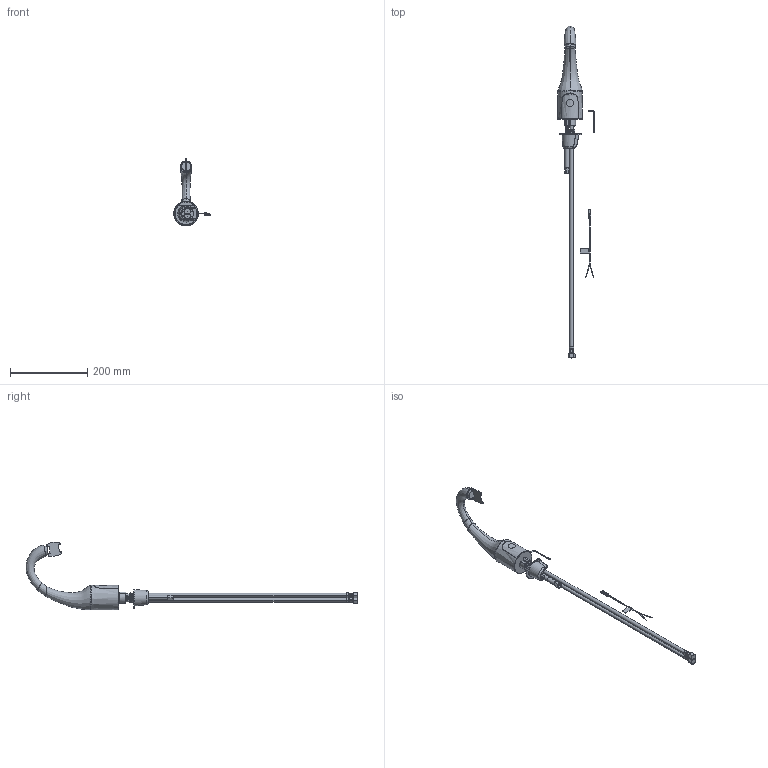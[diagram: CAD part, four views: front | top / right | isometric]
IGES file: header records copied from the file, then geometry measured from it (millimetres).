
Start section:  PTC IGES file: 116-769-ab-1t_REV062770.igs
Global section: file name: 116-769-ab-1t_REV062770.igs; native system: Creo Parametric by PTC Inc.; preprocessor: 2021184; author: rodjo; organization: Unknown; date: 20220627.092810; units: inch
Bounding box: 94.21 x 859.7 x 175.77 mm (x, y, z)
Surface area: 119788.4 mm2 (no closed solid volume)
Topology: 0 solids, 0 shells, 621 faces, 5049 edges, 6908 vertices
Faces by surface type: revolution 389, bspline 232
